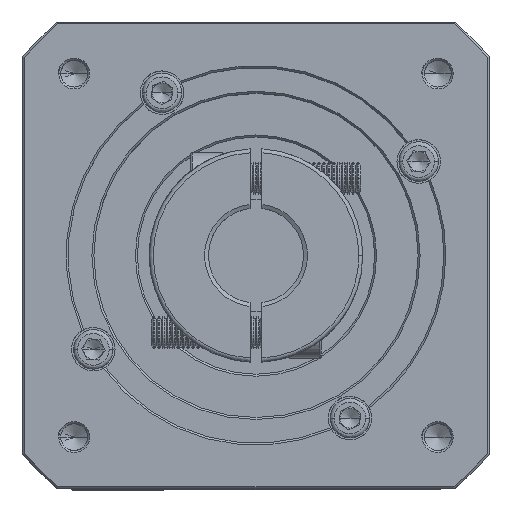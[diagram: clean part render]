
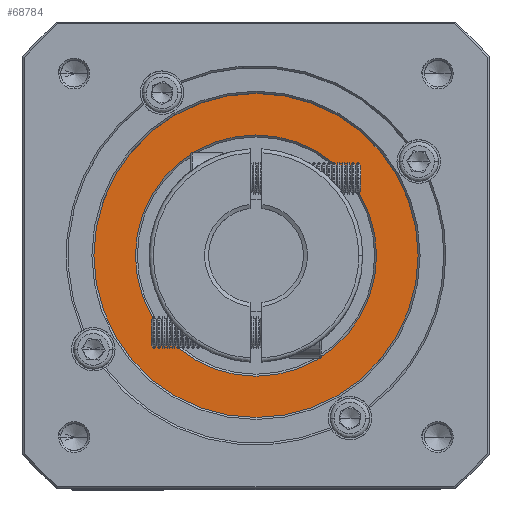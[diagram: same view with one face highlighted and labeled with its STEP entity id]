
A CAD part, top view. The second image highlights one B-rep face of the part: STEP entity #68784.
In plain terms, the highlighted planar face has unit normal (0, 0, 1).
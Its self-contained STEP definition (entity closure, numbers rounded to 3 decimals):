
#4939 = EDGE_LOOP ( 'NONE', ( #26738, #88085 ) ) ;
#6141 = CARTESIAN_POINT ( 'NONE',  ( 74.211, 101.778, -2.67 ) ) ;
#7915 = CIRCLE ( 'NONE', #9414, 30.5 ) ;
#9414 = AXIS2_PLACEMENT_3D ( 'NONE', #115671, #17960, #107055 ) ;
#10374 = EDGE_CURVE ( 'NONE', #13635, #86938, #58239, .T. ) ;
#12766 = FACE_OUTER_BOUND ( 'NONE', #4939, .T. ) ;
#13635 = VERTEX_POINT ( 'NONE', #42139 ) ;
#17960 = DIRECTION ( 'NONE',  ( 0., 0., -1. ) ) ;
#18400 = FACE_BOUND ( 'NONE', #19865, .T. ) ;
#19033 = PLANE ( 'NONE',  #65222 ) ;
#19865 = EDGE_LOOP ( 'NONE', ( #20062, #54372 ) ) ;
#20062 = ORIENTED_EDGE ( 'NONE', *, *, #84897, .T. ) ;
#25011 = EDGE_CURVE ( 'NONE', #86938, #13635, #87211, .T. ) ;
#26738 = ORIENTED_EDGE ( 'NONE', *, *, #10374, .T. ) ;
#27668 = DIRECTION ( 'NONE',  ( 0., 0., 1. ) ) ;
#28309 = CARTESIAN_POINT ( 'NONE',  ( 74.211, 71.278, -2.67 ) ) ;
#34080 = DIRECTION ( 'NONE',  ( 0., -1., 0. ) ) ;
#34777 = VERTEX_POINT ( 'NONE', #28309 ) ;
#37414 = DIRECTION ( 'NONE',  ( 1., 0., 0. ) ) ;
#42139 = CARTESIAN_POINT ( 'NONE',  ( 115.211, 101.778, -2.67 ) ) ;
#45470 = AXIS2_PLACEMENT_3D ( 'NONE', #6141, #94755, #95554 ) ;
#45554 = DIRECTION ( 'NONE',  ( 0., 0., 1. ) ) ;
#54222 = AXIS2_PLACEMENT_3D ( 'NONE', #99054, #45554, #106912 ) ;
#54372 = ORIENTED_EDGE ( 'NONE', *, *, #104270, .T. ) ;
#55884 = AXIS2_PLACEMENT_3D ( 'NONE', #87542, #61667, #34080 ) ;
#58239 = CIRCLE ( 'NONE', #45470, 41. ) ;
#58866 = VERTEX_POINT ( 'NONE', #64874 ) ;
#61667 = DIRECTION ( 'NONE',  ( 0., 0., -1. ) ) ;
#64815 = CIRCLE ( 'NONE', #55884, 30.5 ) ;
#64874 = CARTESIAN_POINT ( 'NONE',  ( 74.211, 132.278, -2.67 ) ) ;
#65222 = AXIS2_PLACEMENT_3D ( 'NONE', #81948, #27668, #37414 ) ;
#67400 = CARTESIAN_POINT ( 'NONE',  ( 33.211, 101.778, -2.67 ) ) ;
#68784 = ADVANCED_FACE ( 'NONE', ( #12766, #18400 ), #19033, .T. ) ;
#81948 = CARTESIAN_POINT ( 'NONE',  ( 74.211, 101.778, -2.67 ) ) ;
#84897 = EDGE_CURVE ( 'NONE', #34777, #58866, #64815, .T. ) ;
#86938 = VERTEX_POINT ( 'NONE', #67400 ) ;
#87211 = CIRCLE ( 'NONE', #54222, 41. ) ;
#87542 = CARTESIAN_POINT ( 'NONE',  ( 74.211, 101.778, -2.67 ) ) ;
#88085 = ORIENTED_EDGE ( 'NONE', *, *, #25011, .T. ) ;
#94755 = DIRECTION ( 'NONE',  ( 0., 0., 1. ) ) ;
#95554 = DIRECTION ( 'NONE',  ( 1., 0., 0. ) ) ;
#99054 = CARTESIAN_POINT ( 'NONE',  ( 74.211, 101.778, -2.67 ) ) ;
#104270 = EDGE_CURVE ( 'NONE', #58866, #34777, #7915, .T. ) ;
#106912 = DIRECTION ( 'NONE',  ( 1., 0., 0. ) ) ;
#107055 = DIRECTION ( 'NONE',  ( 0., -1., 0. ) ) ;
#115671 = CARTESIAN_POINT ( 'NONE',  ( 74.211, 101.778, -2.67 ) ) ;
